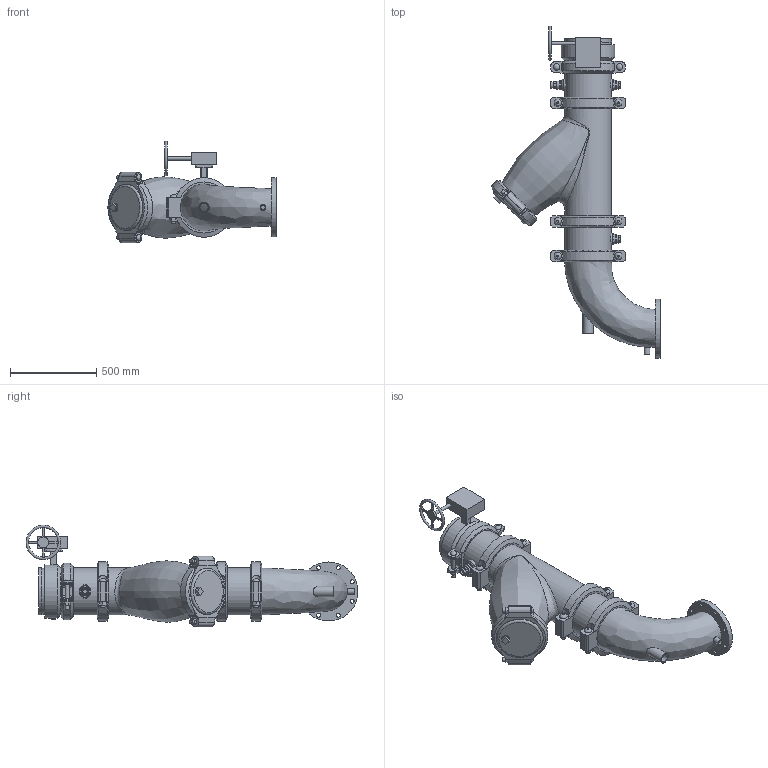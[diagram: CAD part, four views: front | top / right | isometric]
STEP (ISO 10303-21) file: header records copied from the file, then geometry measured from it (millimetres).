
FILE_DESCRIPTION(/* description */ ('VIC SVI PUMP DROP HORZ S/382 (OGSxFLG) (S/924-0.75)','CAx-IF Rec.Pracs.---Representation and Presentation of Product Manufacturing Information (PMI)---4.0---2014-10-13'),/* implementation_level */ '2;1');
FILE_NAME(/* name */ 'C:\Users\Vjadhav\AppData\Roaming\Autodesk\ApplicationPlugins\Victaulic.Temp\A115\Series 382 (OGSxFLG)_924 (0.75)_10.0x08.0 (250x200).stp',/* time_stamp */ '2022-03-17T12:20:56+06:00',/* author */ ('kkamble'),/* organization */ ('Victaulic'),/* preprocessor_version */ 'ST-DEVELOPER v17.2',/* originating_system */ 'Autodesk Inventor 2019',/* authorisation */ '');
FILE_SCHEMA (('AP242_MANAGED_MODEL_BASED_3D_ENGINEERING_MIM_LF { 1 0 10303 442 1 1 4 }'));
Length unit declared in the file: inch
Products named in the file (13): 382_924 (0.75)-10.0x08.0; PIPE-10.0; 107N-10.0; 732-10.0; 732-10.0_1; 07-10.0; 732-10.0_2; 077-10.0; PIPE-10.2; 761-10.0; 924-10.0x0.75; 923-10.0x0.75; R100F-10.0x08.0
Assembly tree (15 placements, depth 3):
  382_924 (0.75)-10.0x08.0
    PIPE-10.0
    107N-10.0
    732-10.0
      732-10.0_1
      07-10.0
      732-10.0_2
    077-10.0  x3
    PIPE-10.2
    761-10.0
    924-10.0x0.75
    923-10.0x0.75  x2
    R100F-10.0x08.0
Bounding box: 977.89 x 1929.43 x 591.16 mm (x, y, z)
Volume: 37165397.3 mm3; surface area: 5883177.6 mm2
Topology: 14 solids, 23 shells, 743 faces, 1862 edges, 1257 vertices
Faces by surface type: plane 416, cylinder 251, bspline 36, cone 27, torus 9, sphere 4
Full cylindrical faces by diameter (mm): 10.922 x4, 12.7 x1, 20.066 x1, 21.336 x2, 22.225 x8, 22.352 x8, 22.86 x1, 25.4 x12, 26.67 x4, 27.432 x6, 34.29 x1, 37.694 x4, 38.608 x1, 45.974 x6, 48.26 x1, 50.8 x1, 55.626 x3, 60.96 x1, 63.079 x1, 70.104 x1, 76.2 x2, 202.717 x1, 241.3 x1, 254.508 x5, 254.762 x1, 260.35 x2, 264.16 x3, 268.275 x11, 273.05 x26, 311.15 x1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
Entity records: 24308 total; most frequent: CARTESIAN_POINT 9149, DIRECTION 3050, ORIENTED_EDGE 2852, EDGE_CURVE 1426, AXIS2_PLACEMENT_3D 1172, VERTEX_POINT 966, LINE 706, VECTOR 706
